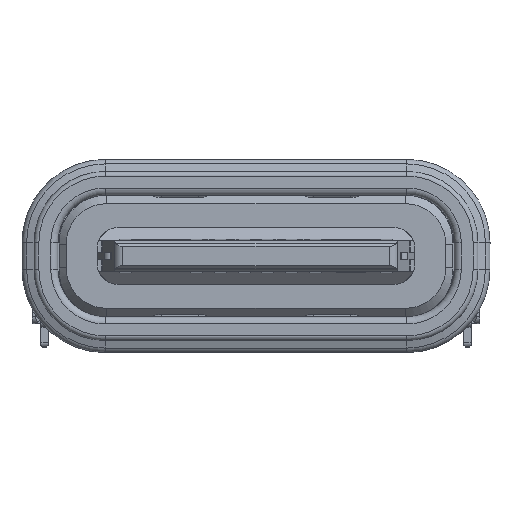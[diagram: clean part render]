
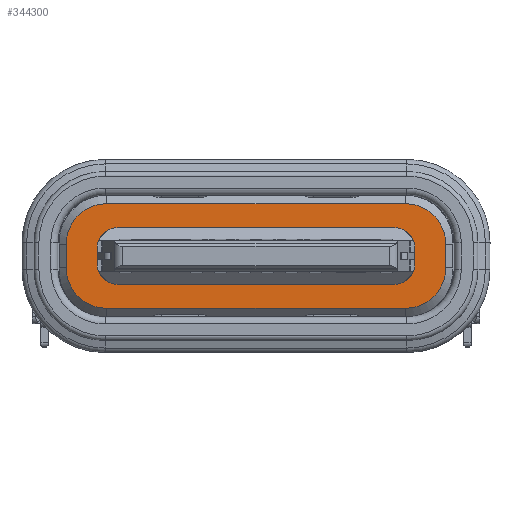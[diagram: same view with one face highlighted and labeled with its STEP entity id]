
A CAD part, front view. The second image highlights one B-rep face of the part: STEP entity #344300.
In plain terms, the highlighted planar face has unit normal (0, -1, 0) as drawn and (1, 0, 0) by its records, which use the part's own axes.
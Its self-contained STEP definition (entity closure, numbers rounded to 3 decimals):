
#213230=CARTESIAN_POINT('',(25.55,0.603,
-14.655));
#213240=VERTEX_POINT('',#213230);
#213270=CARTESIAN_POINT('',(25.55,81.533,
-14.655));
#213280=DIRECTION('',(0.,1.,0.));
#213290=VECTOR('',#213280,1.);
#213300=LINE('',#213270,#213290);
#213310=CARTESIAN_POINT('',(25.55,0.828,
-14.655));
#213320=VERTEX_POINT('',#213310);
#213330=EDGE_CURVE('',#213240,#213320,#213300,.T.);
#213350=CARTESIAN_POINT('',(25.55,81.533,
-14.655));
#213360=DIRECTION('',(0.,-1.,0.));
#213370=VECTOR('',#213360,1.);
#213380=LINE('',#213350,#213370);
#213390=CARTESIAN_POINT('',(25.55,0.903,
-14.655));
#213400=VERTEX_POINT('',#213390);
#213410=EDGE_CURVE('',#213400,#213320,#213380,.T.);
#218000=CARTESIAN_POINT('',(25.55,0.153,
20.496));
#218010=DIRECTION('',(0.,0.,-1.));
#218020=VECTOR('',#218010,1.);
#218030=LINE('',#218000,#218020);
#218040=CARTESIAN_POINT('',(25.55,0.153,
-15.105));
#218050=VERTEX_POINT('',#218040);
#218060=CARTESIAN_POINT('',(25.55,0.153,
-20.895));
#218070=VERTEX_POINT('',#218060);
#218080=EDGE_CURVE('',#218050,#218070,#218030,.T.);
#341900=CARTESIAN_POINT('',(25.55,1.853,
-14.855));
#341910=VERTEX_POINT('',#341900);
#341940=CARTESIAN_POINT('',(25.55,1.003,
-14.855));
#341950=DIRECTION('',(1.,0.,0.));
#341960=DIRECTION('',(0.,1.,0.));
#341970=AXIS2_PLACEMENT_3D('',#341940,#341950,#341960);
#341980=CIRCLE('',#341970,0.85);
#341990=CARTESIAN_POINT('',(25.55,1.003,
-14.005));
#342000=VERTEX_POINT('',#341990);
#342010=EDGE_CURVE('',#341910,#342000,#341980,.T.);
#342210=CARTESIAN_POINT('',(25.55,-0.347,
-14.855));
#342220=VERTEX_POINT('',#342210);
#342250=CARTESIAN_POINT('',(25.55,-0.347,
20.496));
#342260=DIRECTION('',(0.,0.,1.));
#342270=VECTOR('',#342260,1.);
#342280=LINE('',#342250,#342270);
#342290=CARTESIAN_POINT('',(25.55,-0.347,
-21.145));
#342300=VERTEX_POINT('',#342290);
#342310=EDGE_CURVE('',#342300,#342220,#342280,.T.);
#342520=CARTESIAN_POINT('',(25.55,1.853,
-21.145));
#342530=VERTEX_POINT('',#342520);
#342560=CARTESIAN_POINT('',(25.55,1.853,
-21.145));
#342570=DIRECTION('',(0.,0.,1.));
#342580=VECTOR('',#342570,6.29);
#342590=LINE('',#342560,#342580);
#342600=EDGE_CURVE('',#342530,#341910,#342590,.T.);
#342940=CARTESIAN_POINT('',(25.55,0.503,
-21.145));
#342950=DIRECTION('',(1.,0.,0.));
#342960=DIRECTION('',(0.,1.,0.));
#342970=AXIS2_PLACEMENT_3D('',#342940,#342950,#342960);
#342980=CIRCLE('',#342970,0.85);
#342990=CARTESIAN_POINT('',(25.55,0.503,
-21.995));
#343000=VERTEX_POINT('',#342990);
#343010=EDGE_CURVE('',#342300,#343000,#342980,.T.);
#343120=CARTESIAN_POINT('',(25.55,-0.347,
-14.005));
#343130=DIRECTION('',(1.,0.,0.));
#343140=DIRECTION('',(0.,0.,1.));
#343150=AXIS2_PLACEMENT_3D('',#343120,#343130,#343140);
#343160=PLANE('',#343150);
#343170=ORIENTED_EDGE('',*,*,#343010,.T.);
#343180=ORIENTED_EDGE('',*,*,#342310,.F.);
#343190=CARTESIAN_POINT('',(25.55,0.503,
-14.855));
#343200=DIRECTION('',(1.,0.,0.));
#343210=DIRECTION('',(0.,1.,0.));
#343220=AXIS2_PLACEMENT_3D('',#343190,#343200,#343210);
#343230=CIRCLE('',#343220,0.85);
#343240=CARTESIAN_POINT('',(25.55,0.503,
-14.005));
#343250=VERTEX_POINT('',#343240);
#343260=EDGE_CURVE('',#343250,#342220,#343230,.T.);
#343270=ORIENTED_EDGE('',*,*,#343260,.T.);
#343280=CARTESIAN_POINT('',(25.55,81.533,
-14.005));
#343290=DIRECTION('',(0.,1.,0.));
#343300=VECTOR('',#343290,1.);
#343310=LINE('',#343280,#343300);
#343320=CARTESIAN_POINT('',(25.55,0.828,
-14.005));
#343330=VERTEX_POINT('',#343320);
#343340=EDGE_CURVE('',#343250,#343330,#343310,.T.);
#343350=ORIENTED_EDGE('',*,*,#343340,.F.);
#343360=CARTESIAN_POINT('',(25.55,1.003,
-14.005));
#343370=DIRECTION('',(0.,-1.,0.));
#343380=VECTOR('',#343370,0.325);
#343390=LINE('',#343360,#343380);
#343400=EDGE_CURVE('',#342000,#343330,#343390,.T.);
#343410=ORIENTED_EDGE('',*,*,#343400,.T.);
#343420=ORIENTED_EDGE('',*,*,#342010,.T.);
#343430=ORIENTED_EDGE('',*,*,#342600,.T.);
#343440=CARTESIAN_POINT('',(25.55,1.003,
-21.145));
#343450=DIRECTION('',(1.,0.,0.));
#343460=DIRECTION('',(0.,0.,-1.));
#343470=AXIS2_PLACEMENT_3D('',#343440,#343450,#343460);
#343480=CIRCLE('',#343470,0.85);
#343490=CARTESIAN_POINT('',(25.55,1.003,
-21.995));
#343500=VERTEX_POINT('',#343490);
#343510=EDGE_CURVE('',#343500,#342530,#343480,.T.);
#343520=ORIENTED_EDGE('',*,*,#343510,.T.);
#343530=CARTESIAN_POINT('',(25.55,1.003,
-21.995));
#343540=DIRECTION('',(0.,-1.,0.));
#343550=VECTOR('',#343540,0.325);
#343560=LINE('',#343530,#343550);
#343570=CARTESIAN_POINT('',(25.55,0.828,
-21.995));
#343580=VERTEX_POINT('',#343570);
#343590=EDGE_CURVE('',#343500,#343580,#343560,.T.);
#343600=ORIENTED_EDGE('',*,*,#343590,.F.);
#343610=CARTESIAN_POINT('',(25.55,81.533,
-21.995));
#343620=DIRECTION('',(0.,-1.,0.));
#343630=VECTOR('',#343620,1.);
#343640=LINE('',#343610,#343630);
#343650=EDGE_CURVE('',#343580,#343000,#343640,.T.);
#343660=ORIENTED_EDGE('',*,*,#343650,.F.);
#343670=EDGE_LOOP('',(#343660,#343600,#343520,#343430,#343420,#343410,
#343350,#343270,#343180,#343170));
#343680=FACE_OUTER_BOUND('',#343670,.T.);
#343690=CARTESIAN_POINT('',(25.55,81.533,
-21.345));
#343700=DIRECTION('',(0.,1.,0.));
#343710=VECTOR('',#343700,1.);
#343720=LINE('',#343690,#343710);
#343730=CARTESIAN_POINT('',(25.55,0.828,
-21.345));
#343740=VERTEX_POINT('',#343730);
#343750=CARTESIAN_POINT('',(25.55,0.903,
-21.345));
#343760=VERTEX_POINT('',#343750);
#343770=EDGE_CURVE('',#343740,#343760,#343720,.T.);
#343780=ORIENTED_EDGE('',*,*,#343770,.F.);
#343790=CARTESIAN_POINT('',(25.55,0.903,
-20.895));
#343800=DIRECTION('',(-1.,0.,0.));
#343810=DIRECTION('',(0.,0.,-1.));
#343820=AXIS2_PLACEMENT_3D('',#343790,#343800,#343810);
#343830=CIRCLE('',#343820,0.45);
#343840=CARTESIAN_POINT('',(25.55,1.353,
-20.895));
#343850=VERTEX_POINT('',#343840);
#343860=EDGE_CURVE('',#343850,#343760,#343830,.T.);
#343870=ORIENTED_EDGE('',*,*,#343860,.T.);
#343880=CARTESIAN_POINT('',(25.55,1.353,
20.496));
#343890=DIRECTION('',(0.,0.,-1.));
#343900=VECTOR('',#343890,1.);
#343910=LINE('',#343880,#343900);
#343920=CARTESIAN_POINT('',(25.55,1.353,
-15.105));
#343930=VERTEX_POINT('',#343920);
#343940=EDGE_CURVE('',#343930,#343850,#343910,.T.);
#343950=ORIENTED_EDGE('',*,*,#343940,.T.);
#343960=CARTESIAN_POINT('',(25.55,0.903,
-15.105));
#343970=DIRECTION('',(1.,0.,0.));
#343980=DIRECTION('',(0.,0.,1.));
#343990=AXIS2_PLACEMENT_3D('',#343960,#343970,#343980);
#344000=CIRCLE('',#343990,0.45);
#344010=EDGE_CURVE('',#343930,#213400,#344000,.T.);
#344020=ORIENTED_EDGE('',*,*,#344010,.F.);
#344030=ORIENTED_EDGE('',*,*,#213410,.F.);
#344040=ORIENTED_EDGE('',*,*,#213330,.T.);
#344050=CARTESIAN_POINT('',(25.55,0.603,
-15.105));
#344060=DIRECTION('',(-1.,0.,0.));
#344070=DIRECTION('',(0.,0.,-1.));
#344080=AXIS2_PLACEMENT_3D('',#344050,#344060,#344070);
#344090=CIRCLE('',#344080,0.45);
#344100=EDGE_CURVE('',#218050,#213240,#344090,.T.);
#344110=ORIENTED_EDGE('',*,*,#344100,.T.);
#344120=ORIENTED_EDGE('',*,*,#218080,.F.);
#344130=CARTESIAN_POINT('',(25.55,0.603,
-20.895));
#344140=DIRECTION('',(-1.,0.,0.));
#344150=DIRECTION('',(0.,0.,-1.));
#344160=AXIS2_PLACEMENT_3D('',#344130,#344140,#344150);
#344170=CIRCLE('',#344160,0.45);
#344180=CARTESIAN_POINT('',(25.55,0.603,
-21.345));
#344190=VERTEX_POINT('',#344180);
#344200=EDGE_CURVE('',#344190,#218070,#344170,.T.);
#344210=ORIENTED_EDGE('',*,*,#344200,.T.);
#344220=CARTESIAN_POINT('',(25.55,81.533,
-21.345));
#344230=DIRECTION('',(0.,-1.,0.));
#344240=VECTOR('',#344230,1.);
#344250=LINE('',#344220,#344240);
#344260=EDGE_CURVE('',#343740,#344190,#344250,.T.);
#344270=ORIENTED_EDGE('',*,*,#344260,.T.);
#344280=EDGE_LOOP('',(#344270,#344210,#344120,#344110,#344040,#344030,
#344020,#343950,#343870,#343780));
#344290=FACE_BOUND('',#344280,.T.);
#344300=ADVANCED_FACE('',(#343680,#344290),#343160,.T.);
